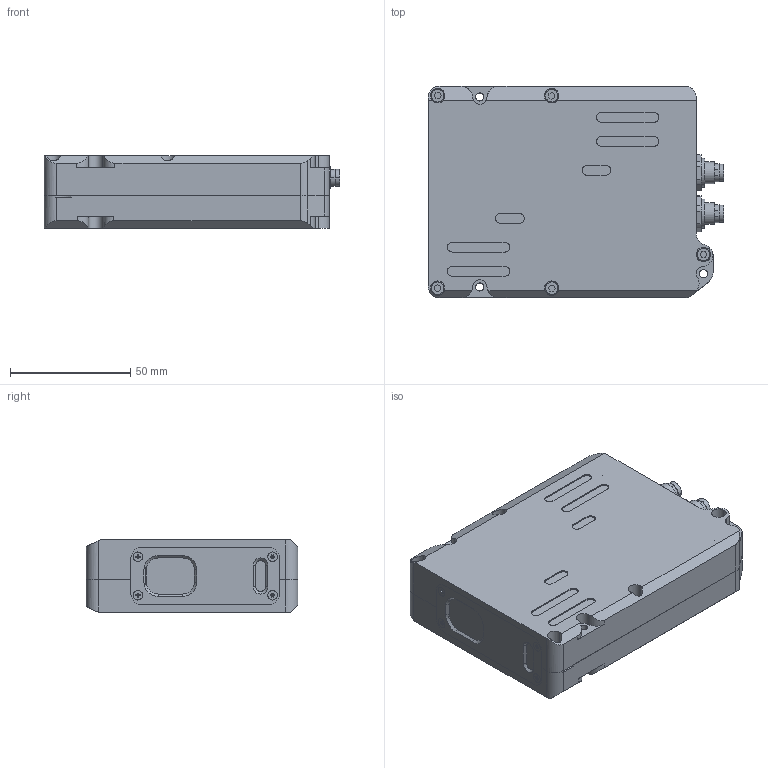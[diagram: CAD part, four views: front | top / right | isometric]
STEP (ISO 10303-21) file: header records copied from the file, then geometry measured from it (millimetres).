
FILE_DESCRIPTION (( 'STEP AP203' ), '1' );
FILE_NAME ('COMPACT LINE.STEP', '2014-04-24T12:26:17', ( 'Serg' ), ( '' ), 'SwSTEP 2.0', 'SolidWorks 2012', '' );
FILE_SCHEMA (( 'CONFIG_CONTROL_DESIGN' ));
Length unit declared in the file: millimetre
Products named in the file (15): COMPACT LINE; Ñòåêëî 8õ16; Ñòåêëî 17õ23; Âèíò_Ì2õ4; ÐÔ 625.01_Ðàìêà îêíà; Âèíò_Ì3õ12; Øàéáà ïðóæèííàÿ_3; Ãàéêà Raz_09_0427_80_08; Raz_09_0427_80_05; Raz_09_0427_80_08; 性 625.01_署赅; Ïðèçìà 6õ90; ﾋ珸褞; AZURE FIFO-25-1B; 俶 625.01_扻豵鵨
Assembly tree (22 placements, depth 2):
  COMPACT LINE
    俶 625.01_扻豵鵨
    AZURE FIFO-25-1B
    ﾋ珸褞
    Ïðèçìà 6õ90
    性 625.01_署赅
    Raz_09_0427_80_08
    Raz_09_0427_80_05
    Ãàéêà Raz_09_0427_80_08  x2
    Øàéáà ïðóæèííàÿ_3
    Âèíò_Ì3õ12  x5
    ÐÔ 625.01_Ðàìêà îêíà
    Âèíò_Ì2õ4  x4
    Ñòåêëî 17õ23
    Ñòåêëî 8õ16
Bounding box: 123 x 88 x 30 mm (x, y, z)
Volume: 97935.4 mm3; surface area: 74354.2 mm2
Topology: 22 solids, 22 shells, 1067 faces, 2746 edges, 1792 vertices
Faces by surface type: plane 479, cylinder 473, cone 107, torus 6, sphere 2
Entity records: 30609 total; most frequent: CARTESIAN_POINT 5595, DIRECTION 5098, ORIENTED_EDGE 4728, EDGE_CURVE 2364, AXIS2_PLACEMENT_3D 1905, VERTEX_POINT 1556, LINE 1288, VECTOR 1288
